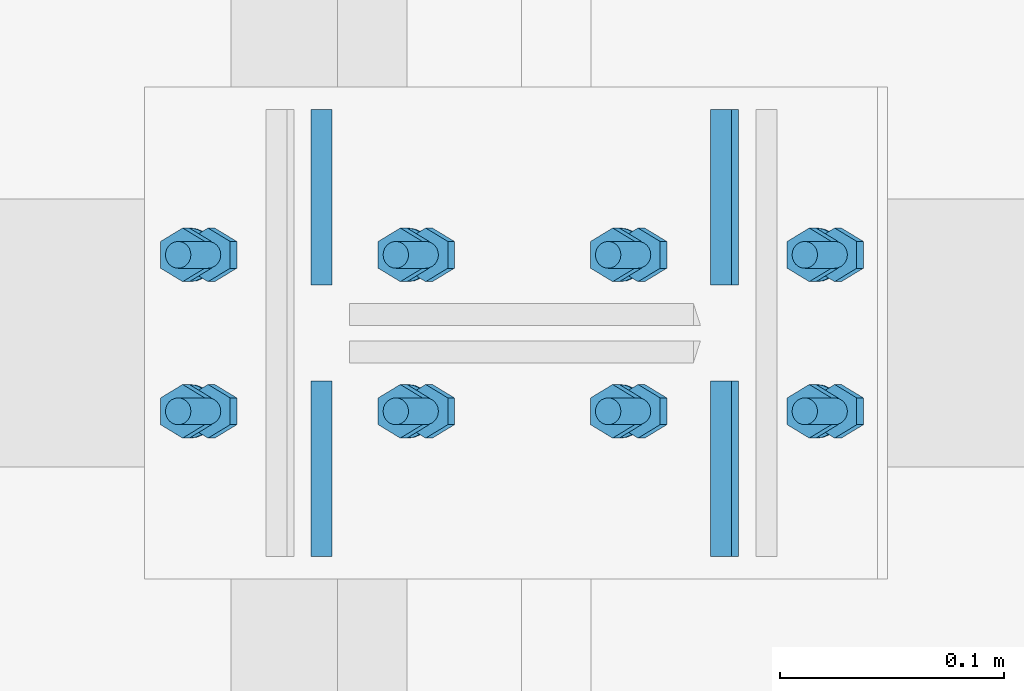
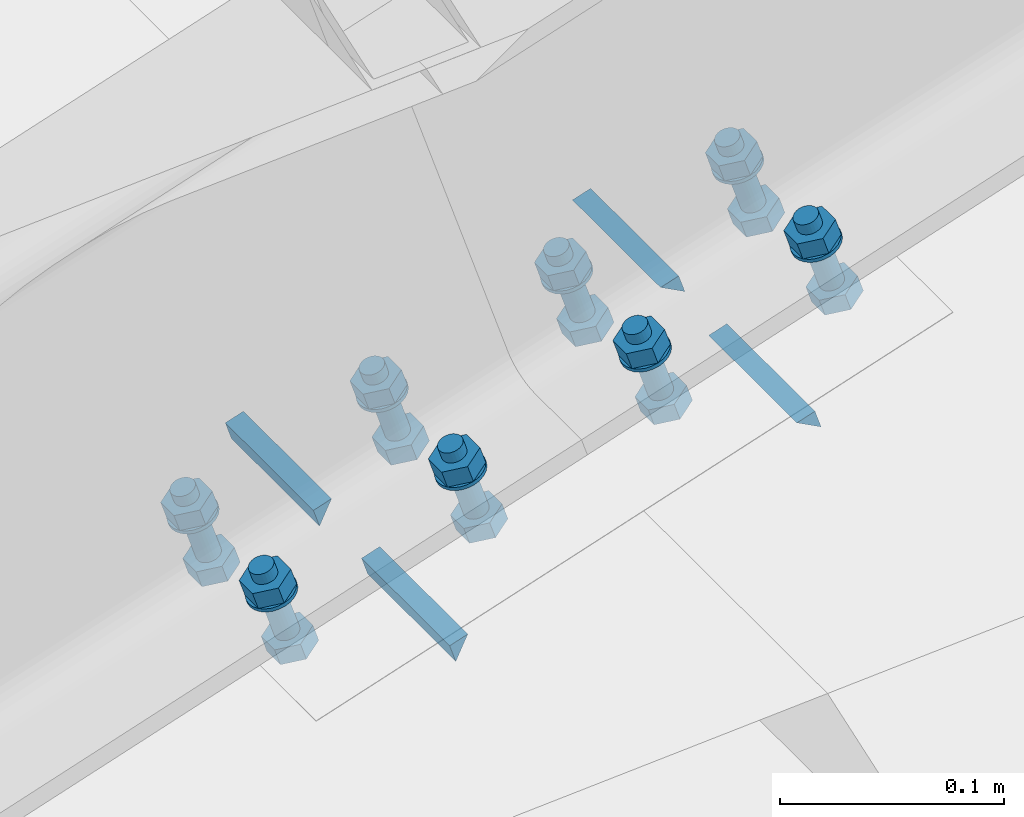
# One storey, part 33 of 53: 32 mechanical fasteners, 8 fasteners.
"""IFC4 building model written with IfcOpenShell, lengths in metres."""

from ifc_helpers import new_model, si_unit, frame, origin_with_axes, place, context, project, spatial, polyline, outline, extrude, type_object, element, save


model = new_model("IFC4")

# Units and contexts
model_context = context("Model", 3, precision=1e-05, world=origin_with_axes())
ifc_project = project(units=[si_unit("LENGTHUNIT", "METRE"), si_unit("AREAUNIT", "SQUARE_METRE"), si_unit("VOLUMEUNIT", "CUBIC_METRE"), si_unit("MASSUNIT", "GRAM", prefix="KILO"), si_unit("TIMEUNIT", "SECOND"), si_unit("PLANEANGLEUNIT", "RADIAN"), si_unit("SOLIDANGLEUNIT", "STERADIAN"), si_unit("THERMODYNAMICTEMPERATUREUNIT", "DEGREE_CELSIUS")], contexts=[model_context])

# Site, building, storey
placement_1 = place(None, origin_with_axes())
site = spatial("IfcSite", under=ifc_project, at=placement_1, Name="Italia", CompositionType="ELEMENT")
building = spatial("IfcBuilding", under=site, at=placement_1, Name="Capannone", CompositionType="ELEMENT")
storey_placement = place(None, frame((0.0, 0.0, 5.550000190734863), z_axis=(0.0, 0.0, 1.0), x_axis=(1.0, 0.0, 0.0)))
storey = spatial("IfcBuildingStorey", under=building, at=storey_placement, Name="Storey 1", CompositionType="ELEMENT", Elevation=5.550000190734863)

# Fasteners
fastener_type_1 = type_object("IfcFastenerType", Name="Collegamenti 0101_0001 0103_0003 0105_0005 0107_0007 0109_0009 0111_0011", PredefinedType="WELD")
placement_2 = place(placement_1, origin_with_axes())
fastener_1_placement = place(placement_2, origin_with_axes())
element("IfcFastener", 1, at=fastener_1_placement, inside=storey, type_object=fastener_type_1, Name="Collegamenti 0101_0001 0103_0003 0105_0005 0107_0007 0109_0009 0111_0011", context=model_context, shape_type="SweptSolid", body=[
    extrude(outline(polyline([(0.0, 0.0), (-0.00619942, -0.0127454), (-0.00937507, -0.00308037), (0.0, 0.0)])), frame((-0.0846885, 9.10005, 5.50644), z_axis=(0.0, -1.0, 0.0), x_axis=(1.0, 0.0, 0.0)), (0.0, 0.0, 1.0), 0.0785999),
])
fastener_type_2 = type_object("IfcFastenerType", Name="Collegamenti 0101_0001 0103_0003 0105_0005 0107_0007 0109_0009 0111_0011", PredefinedType="WELD")
fastener_2_placement = place(placement_2, origin_with_axes())
element("IfcFastener", 2, at=fastener_2_placement, inside=storey, type_object=fastener_type_2, Name="Collegamenti 0101_0001 0103_0003 0105_0005 0107_0007 0109_0009 0111_0011", context=model_context, shape_type="SweptSolid", body=[
    extrude(outline(polyline([(0.0, 0.0), (-0.0125507, -0.00658464), (-0.00937507, 0.00308037), (0.0, 0.0)])), frame((0.0846564, 9.02145, 5.56208), z_axis=(0.0, 1.0, 0.0), x_axis=(-1.0, 0.0, 0.0)), (0.0, 0.0, 1.0), 0.0785999),
])
fastener_type_3 = type_object("IfcFastenerType", Name="Collegamenti 0101_0001 0103_0003 0105_0005 0107_0007 0109_0009 0111_0011", PredefinedType="WELD")
fastener_3_placement = place(placement_2, origin_with_axes())
element("IfcFastener", 3, at=fastener_3_placement, inside=storey, type_object=fastener_type_3, Name="Collegamenti 0101_0001 0103_0003 0105_0005 0107_0007 0109_0009 0111_0011", context=model_context, shape_type="SweptSolid", body=[
    extrude(outline(polyline([(0.0, 0.0), (-0.0125507, -0.00658464), (-0.00937507, 0.00308037), (0.0, 0.0)])), frame((0.0846564, 8.89995, 5.56208), z_axis=(0.0, 1.0, 0.0), x_axis=(-1.0, 0.0, 0.0)), (0.0, 0.0, 1.0), 0.0785999),
])
fastener_type_4 = type_object("IfcFastenerType", Name="Collegamenti 0101_0001 0103_0003 0105_0005 0107_0007 0109_0009 0111_0011", PredefinedType="WELD")
fastener_4_placement = place(placement_2, origin_with_axes())
element("IfcFastener", 4, at=fastener_4_placement, inside=storey, type_object=fastener_type_4, Name="Collegamenti 0101_0001 0103_0003 0105_0005 0107_0007 0109_0009 0111_0011", context=model_context, shape_type="SweptSolid", body=[
    extrude(outline(polyline([(0.0, 0.0), (-0.00619942, -0.0127454), (-0.00937507, -0.00308037), (0.0, 0.0)])), frame((-0.0846885, 8.97855, 5.50644), z_axis=(0.0, -1.0, 0.0), x_axis=(1.0, 0.0, 0.0)), (0.0, 0.0, 1.0), 0.0785999),
])
fastener_type_5 = type_object("IfcFastenerType", Name="Collegamenti 0101_0001 0103_0003 0105_0005 0107_0007 0109_0009 0111_0011", PredefinedType="WELD")
fastener_5_placement = place(placement_2, origin_with_axes())
element("IfcFastener", 5, at=fastener_5_placement, inside=storey, type_object=fastener_type_5, Name="Collegamenti 0101_0001 0103_0003 0105_0005 0107_0007 0109_0009 0111_0011", context=model_context, shape_type="SweptSolid", body=[
    extrude(outline(polyline([(0.0, 0.0), (-0.00619942, -0.0127454), (-0.00937507, -0.00308037), (0.0, 0.0)])), frame((-0.0846885, 9.10005, 5.50644), z_axis=(0.0, -1.0, 0.0), x_axis=(1.0, 0.0, 0.0)), (0.0, 0.0, 1.0), 0.0785999),
])
fastener_type_6 = type_object("IfcFastenerType", Name="Collegamenti 0101_0001 0103_0003 0105_0005 0107_0007 0109_0009 0111_0011", PredefinedType="WELD")
fastener_6_placement = place(placement_2, origin_with_axes())
element("IfcFastener", 6, at=fastener_6_placement, inside=storey, type_object=fastener_type_6, Name="Collegamenti 0101_0001 0103_0003 0105_0005 0107_0007 0109_0009 0111_0011", context=model_context, shape_type="SweptSolid", body=[
    extrude(outline(polyline([(0.0, 0.0), (-0.0125507, -0.00658464), (-0.00937507, 0.00308037), (0.0, 0.0)])), frame((0.0846564, 9.02145, 5.56208), z_axis=(0.0, 1.0, 0.0), x_axis=(-1.0, 0.0, 0.0)), (0.0, 0.0, 1.0), 0.0785999),
])
fastener_type_7 = type_object("IfcFastenerType", Name="Collegamenti 0101_0001 0103_0003 0105_0005 0107_0007 0109_0009 0111_0011", PredefinedType="WELD")
fastener_7_placement = place(placement_2, origin_with_axes())
element("IfcFastener", 7, at=fastener_7_placement, inside=storey, type_object=fastener_type_7, Name="Collegamenti 0101_0001 0103_0003 0105_0005 0107_0007 0109_0009 0111_0011", context=model_context, shape_type="SweptSolid", body=[
    extrude(outline(polyline([(0.0, 0.0), (-0.0125507, -0.00658464), (-0.00937507, 0.00308037), (0.0, 0.0)])), frame((0.0846564, 8.89995, 5.56208), z_axis=(0.0, 1.0, 0.0), x_axis=(-1.0, 0.0, 0.0)), (0.0, 0.0, 1.0), 0.0785999),
])
fastener_type_8 = type_object("IfcFastenerType", Name="Collegamenti 0101_0001 0103_0003 0105_0005 0107_0007 0109_0009 0111_0011", PredefinedType="WELD")
fastener_8_placement = place(placement_2, origin_with_axes())
element("IfcFastener", 8, at=fastener_8_placement, inside=storey, type_object=fastener_type_8, Name="Collegamenti 0101_0001 0103_0003 0105_0005 0107_0007 0109_0009 0111_0011", context=model_context, shape_type="SweptSolid", body=[
    extrude(outline(polyline([(0.0, 0.0), (-0.00619942, -0.0127454), (-0.00937507, -0.00308037), (0.0, 0.0)])), frame((-0.0846885, 8.97855, 5.50644), z_axis=(0.0, -1.0, 0.0), x_axis=(1.0, 0.0, 0.0)), (0.0, 0.0, 1.0), 0.0785999),
])

# Mechanical fasteners
mechanical_fastener_type_1 = type_object("IfcMechanicalFastenerType", Name="Collegamenti 0101_0001 0103_0003 0105_0005 0107_0007 0109_0009 0111_0011", PredefinedType="BOLT")
mechanical_fastener_1_placement = place(placement_2, origin_with_axes())
element("IfcMechanicalFastener", 9, at=mechanical_fastener_1_placement, inside=storey, type_object=mechanical_fastener_type_1, Name="Collegamenti 0101_0001 0103_0003 0105_0005 0107_0007 0109_0009 0111_0011", NominalDiameter=0.0119998, context=model_context, shape_type="SweptSolid", body=[
    extrude(outline(polyline([(0.0, 0.0), (0.0120001, 0.0), (0.0179996, -0.0103923), (0.0120001, -0.0207845), (0.0, -0.0207845), (-0.00600052, -0.0103923), (0.0, 0.0)])), frame((-0.130325, 9.029, 5.49139), z_axis=(0.312164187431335, 0.0, -0.95002818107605), x_axis=(0.0, 1.0, 0.0)), (0.0, 0.0, 1.0), 0.0095997),
])
mechanical_fastener_type_2 = type_object("IfcMechanicalFastenerType", Name="Collegamenti 0101_0001 0103_0003 0105_0005 0107_0007 0109_0009 0111_0011", PredefinedType="BOLT")
mechanical_fastener_2_placement = place(placement_2, origin_with_axes())
element("IfcMechanicalFastener", 10, at=mechanical_fastener_2_placement, inside=storey, type_object=mechanical_fastener_type_2, Name="Collegamenti 0101_0001 0103_0003 0105_0005 0107_0007 0109_0009 0111_0011", NominalDiameter=0.012, context=model_context, shape_type="SweptSolid", body=[
    extrude(outline(polyline([(0.0, 0.0), (-0.000204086, -0.00155306), (-0.000802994, -0.00300002), (-0.00175667, -0.00424254), (-0.00299931, -0.00519633), (-0.00444698, -0.0057956), (-0.00599957, -0.00600004), (-0.00755215, -0.0057956), (-0.00899982, -0.00519633), (-0.0102425, -0.00424254), (-0.0111961, -0.00300002), (-0.011795, -0.00155306), (-0.0119991, 0.0), (-0.011795, 0.00155294), (-0.0111961, 0.00300002), (-0.0102425, 0.00424254), (-0.00899982, 0.00519621), (-0.00755215, 0.00579548), (-0.00599957, 0.00600004), (-0.00444698, 0.00579548), (-0.00299931, 0.00519621), (-0.00175667, 0.00424254), (-0.000802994, 0.00300002), (-0.000204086, 0.00155294), (0.0, 0.0)])), frame((-0.153558, 9.041, 5.52881), z_axis=(0.312153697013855, 0.0, -0.950031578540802), x_axis=(0.0, 1.0, 0.0)), (0.0, 0.0, 1.0), 0.0428),
])
mechanical_fastener_type_3 = type_object("IfcMechanicalFastenerType", Name="Collegamenti 0101_0001 0103_0003 0105_0005 0107_0007 0109_0009 0111_0011", PredefinedType="BOLT")
mechanical_fastener_3_placement = place(placement_2, origin_with_axes())
element("IfcMechanicalFastener", 11, at=mechanical_fastener_3_placement, inside=storey, type_object=mechanical_fastener_type_3, Name="Collegamenti 0101_0001 0103_0003 0105_0005 0107_0007 0109_0009 0111_0011", NominalDiameter=0.0119998, context=model_context, shape_type="SweptSolid", body=[
    extrude(outline(polyline([(0.0, 0.0), (0.0120001, 0.0), (0.0179996, -0.0103924), (0.0120001, -0.0207846), (0.0, -0.0207846), (-0.00600052, -0.0103924), (0.0, 0.0)])), frame((-0.141687, 9.029, 5.52597), z_axis=(0.312164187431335, 0.0, -0.95002818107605), x_axis=(0.0, 1.0, 0.0)), (0.0, 0.0, 1.0), 0.0095997),
])
mechanical_fastener_type_4 = type_object("IfcMechanicalFastenerType", Name="Collegamenti 0101_0001 0103_0003 0105_0005 0107_0007 0109_0009 0111_0011", PredefinedType="BOLT")
mechanical_fastener_4_placement = place(placement_2, origin_with_axes())
element("IfcMechanicalFastener", 12, at=mechanical_fastener_4_placement, inside=storey, type_object=mechanical_fastener_type_4, Name="Collegamenti 0101_0001 0103_0003 0105_0005 0107_0007 0109_0009 0111_0011", NominalDiameter=0.024, context=model_context, shape_type="SweptSolid", body=[
    extrude(outline(polyline([(0.0, 0.0), (-0.000409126, -0.00310576), (-0.00160789, -0.00599992), (-0.00351524, -0.0084852), (-0.00600052, -0.0103922), (-0.00889397, -0.0115911), (-0.0120001, -0.0119998), (-0.0151062, -0.0115911), (-0.0179996, -0.0103922), (-0.0204849, -0.0084852), (-0.0223923, -0.00599992), (-0.023591, -0.00310576), (-0.0240002, 0.0), (-0.023591, 0.003106), (-0.0223923, 0.00600016), (-0.0204849, 0.00848532), (-0.0179996, 0.0103924), (-0.0151062, 0.0115913), (-0.0120001, 0.0120001), (-0.00889397, 0.0115913), (-0.00600052, 0.0103924), (-0.00351524, 0.00848532), (-0.00160789, 0.00600016), (-0.000409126, 0.003106), (0.0, 0.0)])), frame((-0.148563, 9.047, 5.51361), z_axis=(0.312059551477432, 0.0, -0.95006251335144), x_axis=(0.0, 1.0, 0.0)), (0.0, 0.0, 1.0), 0.00200058),
])
mechanical_fastener_type_5 = type_object("IfcMechanicalFastenerType", Name="Collegamenti 0101_0001 0103_0003 0105_0005 0107_0007 0109_0009 0111_0011", PredefinedType="BOLT")
mechanical_fastener_5_placement = place(placement_2, origin_with_axes())
element("IfcMechanicalFastener", 13, at=mechanical_fastener_5_placement, inside=storey, type_object=mechanical_fastener_type_5, Name="Collegamenti 0101_0001 0103_0003 0105_0005 0107_0007 0109_0009 0111_0011", NominalDiameter=0.0119998, context=model_context, shape_type="SweptSolid", body=[
    extrude(outline(polyline([(0.0, 0.0), (0.0120001, 0.0), (0.0180006, -0.0103923), (0.0120001, -0.0207845), (0.0, -0.0207845), (-0.00599957, -0.0103923), (0.0, 0.0)])), frame((-0.130325, 8.959, 5.49139), z_axis=(0.312164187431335, 0.0, -0.95002818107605), x_axis=(0.0, 1.0, 0.0)), (0.0, 0.0, 1.0), 0.0095997),
])
mechanical_fastener_type_6 = type_object("IfcMechanicalFastenerType", Name="Collegamenti 0101_0001 0103_0003 0105_0005 0107_0007 0109_0009 0111_0011", PredefinedType="BOLT")
mechanical_fastener_6_placement = place(placement_2, origin_with_axes())
element("IfcMechanicalFastener", 14, at=mechanical_fastener_6_placement, inside=storey, type_object=mechanical_fastener_type_6, Name="Collegamenti 0101_0001 0103_0003 0105_0005 0107_0007 0109_0009 0111_0011", NominalDiameter=0.012, context=model_context, shape_type="SweptSolid", body=[
    extrude(outline(polyline([(0.0, 0.0), (-0.000204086, -0.00155306), (-0.000802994, -0.00300002), (-0.00175667, -0.00424254), (-0.00299931, -0.00519633), (-0.00444698, -0.0057956), (-0.00599957, -0.00600004), (-0.00755215, -0.0057956), (-0.00899982, -0.00519633), (-0.0102425, -0.00424254), (-0.0111961, -0.00300002), (-0.011795, -0.00155306), (-0.0119991, 0.0), (-0.011795, 0.00155294), (-0.0111961, 0.00300002), (-0.0102425, 0.00424254), (-0.00899982, 0.00519621), (-0.00755215, 0.00579548), (-0.00599957, 0.00600004), (-0.00444698, 0.00579548), (-0.00299931, 0.00519621), (-0.00175667, 0.00424254), (-0.000802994, 0.00300002), (-0.000204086, 0.00155294), (0.0, 0.0)])), frame((-0.153558, 8.971, 5.52881), z_axis=(0.312153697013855, 0.0, -0.950031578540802), x_axis=(0.0, 1.0, 0.0)), (0.0, 0.0, 1.0), 0.0428),
])
mechanical_fastener_type_7 = type_object("IfcMechanicalFastenerType", Name="Collegamenti 0101_0001 0103_0003 0105_0005 0107_0007 0109_0009 0111_0011", PredefinedType="BOLT")
mechanical_fastener_7_placement = place(placement_2, origin_with_axes())
element("IfcMechanicalFastener", 15, at=mechanical_fastener_7_placement, inside=storey, type_object=mechanical_fastener_type_7, Name="Collegamenti 0101_0001 0103_0003 0105_0005 0107_0007 0109_0009 0111_0011", NominalDiameter=0.0119998, context=model_context, shape_type="SweptSolid", body=[
    extrude(outline(polyline([(0.0, 0.0), (0.0120001, 0.0), (0.0180006, -0.0103924), (0.0120001, -0.0207846), (0.0, -0.0207846), (-0.00599957, -0.0103924), (0.0, 0.0)])), frame((-0.141687, 8.959, 5.52597), z_axis=(0.312164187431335, 0.0, -0.95002818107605), x_axis=(0.0, 1.0, 0.0)), (0.0, 0.0, 1.0), 0.0095997),
])
mechanical_fastener_type_8 = type_object("IfcMechanicalFastenerType", Name="Collegamenti 0101_0001 0103_0003 0105_0005 0107_0007 0109_0009 0111_0011", PredefinedType="BOLT")
mechanical_fastener_8_placement = place(placement_2, origin_with_axes())
element("IfcMechanicalFastener", 16, at=mechanical_fastener_8_placement, inside=storey, type_object=mechanical_fastener_type_8, Name="Collegamenti 0101_0001 0103_0003 0105_0005 0107_0007 0109_0009 0111_0011", NominalDiameter=0.024, context=model_context, shape_type="SweptSolid", body=[
    extrude(outline(polyline([(0.0, 0.0), (-0.000409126, -0.00310576), (-0.00160789, -0.00599992), (-0.00351524, -0.0084852), (-0.00600052, -0.0103922), (-0.00889397, -0.0115911), (-0.0120001, -0.0119998), (-0.0151062, -0.0115911), (-0.0179996, -0.0103922), (-0.0204849, -0.0084852), (-0.0223923, -0.00599992), (-0.023591, -0.00310576), (-0.0240002, 0.0), (-0.023591, 0.003106), (-0.0223923, 0.00600016), (-0.0204849, 0.00848532), (-0.0179996, 0.0103924), (-0.0151062, 0.0115913), (-0.0120001, 0.0120001), (-0.00889397, 0.0115913), (-0.00600052, 0.0103924), (-0.00351524, 0.00848532), (-0.00160789, 0.00600016), (-0.000409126, 0.003106), (0.0, 0.0)])), frame((-0.148563, 8.977, 5.51361), z_axis=(0.312059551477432, 0.0, -0.95006251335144), x_axis=(0.0, 1.0, 0.0)), (0.0, 0.0, 1.0), 0.00200058),
])
mechanical_fastener_type_9 = type_object("IfcMechanicalFastenerType", Name="Collegamenti 0101_0001 0103_0003 0105_0005 0107_0007 0109_0009 0111_0011", PredefinedType="BOLT")
mechanical_fastener_9_placement = place(placement_2, origin_with_axes())
element("IfcMechanicalFastener", 17, at=mechanical_fastener_9_placement, inside=storey, type_object=mechanical_fastener_type_9, Name="Collegamenti 0101_0001 0103_0003 0105_0005 0107_0007 0109_0009 0111_0011", NominalDiameter=0.0119998, context=model_context, shape_type="SweptSolid", body=[
    extrude(outline(polyline([(0.0, 0.0), (0.0120001, 0.0), (0.0179996, -0.0103924), (0.0120001, -0.0207846), (0.0, -0.0207846), (-0.00600052, -0.0103924), (0.0, 0.0)])), frame((0.0620569, 9.029, 5.5546), z_axis=(0.312162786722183, 0.0, -0.950028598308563), x_axis=(0.0, 1.0, 0.0)), (0.0, 0.0, 1.0), 0.0095997),
])
mechanical_fastener_type_10 = type_object("IfcMechanicalFastenerType", Name="Collegamenti 0101_0001 0103_0003 0105_0005 0107_0007 0109_0009 0111_0011", PredefinedType="BOLT")
mechanical_fastener_10_placement = place(placement_2, origin_with_axes())
element("IfcMechanicalFastener", 18, at=mechanical_fastener_10_placement, inside=storey, type_object=mechanical_fastener_type_10, Name="Collegamenti 0101_0001 0103_0003 0105_0005 0107_0007 0109_0009 0111_0011", NominalDiameter=0.012, context=model_context, shape_type="SweptSolid", body=[
    extrude(outline(polyline([(0.0, 0.0), (-0.000204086, -0.00155294), (-0.000802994, -0.0029999), (-0.00175667, -0.00424266), (-0.00299931, -0.00519621), (-0.00444698, -0.00579548), (-0.00599957, -0.00600004), (-0.00755215, -0.00579548), (-0.00899982, -0.00519621), (-0.0102425, -0.00424266), (-0.0111961, -0.0029999), (-0.011795, -0.00155294), (-0.0119991, 0.0), (-0.011795, 0.00155306), (-0.0111961, 0.00300002), (-0.0102425, 0.00424254), (-0.00899982, 0.00519621), (-0.00755215, 0.0057956), (-0.00599957, 0.00600004), (-0.00444698, 0.0057956), (-0.00299931, 0.00519621), (-0.00175667, 0.00424254), (-0.000802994, 0.00300002), (-0.000204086, 0.00155306), (0.0, 0.0)])), frame((0.0388237, 9.041, 5.59202), z_axis=(0.312154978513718, 0.0, -0.950031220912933), x_axis=(0.0, 1.0, 0.0)), (0.0, 0.0, 1.0), 0.0428),
])
mechanical_fastener_type_11 = type_object("IfcMechanicalFastenerType", Name="Collegamenti 0101_0001 0103_0003 0105_0005 0107_0007 0109_0009 0111_0011", PredefinedType="BOLT")
mechanical_fastener_11_placement = place(placement_2, origin_with_axes())
element("IfcMechanicalFastener", 19, at=mechanical_fastener_11_placement, inside=storey, type_object=mechanical_fastener_type_11, Name="Collegamenti 0101_0001 0103_0003 0105_0005 0107_0007 0109_0009 0111_0011", NominalDiameter=0.0119998, context=model_context, shape_type="SweptSolid", body=[
    extrude(outline(polyline([(0.0, 0.0), (0.0120001, 0.0), (0.0179996, -0.0103922), (0.0120001, -0.0207845), (0.0, -0.0207845), (-0.00600052, -0.0103922), (0.0, 0.0)])), frame((0.0506946, 9.029, 5.58918), z_axis=(0.312163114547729, 0.0, -0.950028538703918), x_axis=(0.0, 1.0, 0.0)), (0.0, 0.0, 1.0), 0.0095997),
])
mechanical_fastener_type_12 = type_object("IfcMechanicalFastenerType", Name="Collegamenti 0101_0001 0103_0003 0105_0005 0107_0007 0109_0009 0111_0011", PredefinedType="BOLT")
mechanical_fastener_12_placement = place(placement_2, origin_with_axes())
element("IfcMechanicalFastener", 20, at=mechanical_fastener_12_placement, inside=storey, type_object=mechanical_fastener_type_12, Name="Collegamenti 0101_0001 0103_0003 0105_0005 0107_0007 0109_0009 0111_0011", NominalDiameter=0.024, context=model_context, shape_type="SweptSolid", body=[
    extrude(outline(polyline([(0.0, 0.0), (-0.000409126, -0.003106), (-0.00160789, -0.00600004), (-0.00351524, -0.00848544), (-0.00600052, -0.0103923), (-0.00889397, -0.0115912), (-0.0120001, -0.0120001), (-0.0151062, -0.0115912), (-0.0179996, -0.0103923), (-0.0204849, -0.00848544), (-0.0223923, -0.00600004), (-0.023591, -0.003106), (-0.0240002, 0.0), (-0.023591, 0.00310588), (-0.0223923, 0.0059998), (-0.0204849, 0.0084852), (-0.0179996, 0.0103922), (-0.0151062, 0.011591), (-0.0120001, 0.012), (-0.00889397, 0.011591), (-0.00600052, 0.0103922), (-0.00351524, 0.0084852), (-0.00160789, 0.0059998), (-0.000409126, 0.00310588), (0.0, 0.0)])), frame((0.0438182, 9.047, 5.57682), z_axis=(0.312204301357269, 0.0, -0.950015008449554), x_axis=(0.0, 1.0, 0.0)), (0.0, 0.0, 1.0), 0.00199967),
])
mechanical_fastener_type_13 = type_object("IfcMechanicalFastenerType", Name="Collegamenti 0101_0001 0103_0003 0105_0005 0107_0007 0109_0009 0111_0011", PredefinedType="BOLT")
mechanical_fastener_13_placement = place(placement_2, origin_with_axes())
element("IfcMechanicalFastener", 21, at=mechanical_fastener_13_placement, inside=storey, type_object=mechanical_fastener_type_13, Name="Collegamenti 0101_0001 0103_0003 0105_0005 0107_0007 0109_0009 0111_0011", NominalDiameter=0.0119998, context=model_context, shape_type="SweptSolid", body=[
    extrude(outline(polyline([(0.0, 0.0), (0.0120001, 0.0), (0.0180006, -0.0103924), (0.0120001, -0.0207846), (0.0, -0.0207846), (-0.00599957, -0.0103924), (0.0, 0.0)])), frame((0.0620569, 8.959, 5.5546), z_axis=(0.312162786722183, 0.0, -0.950028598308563), x_axis=(0.0, 1.0, 0.0)), (0.0, 0.0, 1.0), 0.0095997),
])
mechanical_fastener_type_14 = type_object("IfcMechanicalFastenerType", Name="Collegamenti 0101_0001 0103_0003 0105_0005 0107_0007 0109_0009 0111_0011", PredefinedType="BOLT")
mechanical_fastener_14_placement = place(placement_2, origin_with_axes())
element("IfcMechanicalFastener", 22, at=mechanical_fastener_14_placement, inside=storey, type_object=mechanical_fastener_type_14, Name="Collegamenti 0101_0001 0103_0003 0105_0005 0107_0007 0109_0009 0111_0011", NominalDiameter=0.012, context=model_context, shape_type="SweptSolid", body=[
    extrude(outline(polyline([(0.0, 0.0), (-0.000204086, -0.00155294), (-0.000802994, -0.0029999), (-0.00175667, -0.00424266), (-0.00299931, -0.00519621), (-0.00444698, -0.00579548), (-0.00599957, -0.00600004), (-0.00755215, -0.00579548), (-0.00899982, -0.00519621), (-0.0102425, -0.00424266), (-0.0111961, -0.0029999), (-0.011795, -0.00155294), (-0.0119991, 0.0), (-0.011795, 0.00155306), (-0.0111961, 0.00300002), (-0.0102425, 0.00424254), (-0.00899982, 0.00519621), (-0.00755215, 0.0057956), (-0.00599957, 0.00600004), (-0.00444698, 0.0057956), (-0.00299931, 0.00519621), (-0.00175667, 0.00424254), (-0.000802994, 0.00300002), (-0.000204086, 0.00155306), (0.0, 0.0)])), frame((0.0388237, 8.971, 5.59202), z_axis=(0.312154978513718, 0.0, -0.950031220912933), x_axis=(0.0, 1.0, 0.0)), (0.0, 0.0, 1.0), 0.0428),
])
mechanical_fastener_type_15 = type_object("IfcMechanicalFastenerType", Name="Collegamenti 0101_0001 0103_0003 0105_0005 0107_0007 0109_0009 0111_0011", PredefinedType="BOLT")
mechanical_fastener_15_placement = place(placement_2, origin_with_axes())
element("IfcMechanicalFastener", 23, at=mechanical_fastener_15_placement, inside=storey, type_object=mechanical_fastener_type_15, Name="Collegamenti 0101_0001 0103_0003 0105_0005 0107_0007 0109_0009 0111_0011", NominalDiameter=0.0119998, context=model_context, shape_type="SweptSolid", body=[
    extrude(outline(polyline([(0.0, 0.0), (0.0120001, 0.0), (0.0180006, -0.0103922), (0.0120001, -0.0207845), (0.0, -0.0207845), (-0.00599957, -0.0103922), (0.0, 0.0)])), frame((0.0506946, 8.959, 5.58918), z_axis=(0.312163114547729, 0.0, -0.950028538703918), x_axis=(0.0, 1.0, 0.0)), (0.0, 0.0, 1.0), 0.0095997),
])
mechanical_fastener_type_16 = type_object("IfcMechanicalFastenerType", Name="Collegamenti 0101_0001 0103_0003 0105_0005 0107_0007 0109_0009 0111_0011", PredefinedType="BOLT")
mechanical_fastener_16_placement = place(placement_2, origin_with_axes())
element("IfcMechanicalFastener", 24, at=mechanical_fastener_16_placement, inside=storey, type_object=mechanical_fastener_type_16, Name="Collegamenti 0101_0001 0103_0003 0105_0005 0107_0007 0109_0009 0111_0011", NominalDiameter=0.024, context=model_context, shape_type="SweptSolid", body=[
    extrude(outline(polyline([(0.0, 0.0), (-0.000409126, -0.003106), (-0.00160789, -0.00600004), (-0.00351524, -0.00848544), (-0.00600052, -0.0103923), (-0.00889397, -0.0115912), (-0.0120001, -0.0120001), (-0.0151062, -0.0115912), (-0.0179996, -0.0103923), (-0.0204849, -0.00848544), (-0.0223923, -0.00600004), (-0.023591, -0.003106), (-0.0240002, 0.0), (-0.023591, 0.00310588), (-0.0223923, 0.0059998), (-0.0204849, 0.0084852), (-0.0179996, 0.0103922), (-0.0151062, 0.011591), (-0.0120001, 0.012), (-0.00889397, 0.011591), (-0.00600052, 0.0103922), (-0.00351524, 0.0084852), (-0.00160789, 0.0059998), (-0.000409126, 0.00310588), (0.0, 0.0)])), frame((0.0438182, 8.977, 5.57682), z_axis=(0.312204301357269, 0.0, -0.950015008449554), x_axis=(0.0, 1.0, 0.0)), (0.0, 0.0, 1.0), 0.00199967),
])
mechanical_fastener_type_17 = type_object("IfcMechanicalFastenerType", Name="Collegamenti 0101_0001 0103_0003 0105_0005 0107_0007 0109_0009 0111_0011", PredefinedType="BOLT")
mechanical_fastener_17_placement = place(placement_2, origin_with_axes())
element("IfcMechanicalFastener", 25, at=mechanical_fastener_17_placement, inside=storey, type_object=mechanical_fastener_type_17, Name="Collegamenti 0101_0001 0103_0003 0105_0005 0107_0007 0109_0009 0111_0011", NominalDiameter=0.0119998, context=model_context, shape_type="SweptSolid", body=[
    extrude(outline(polyline([(0.0, 0.0), (0.0120001, 0.0), (0.0179996, -0.0103922), (0.0120001, -0.0207846), (0.0, -0.0207846), (-0.00600052, -0.0103922), (0.0, 0.0)])), frame((-0.0329462, 9.029, 5.52339), z_axis=(0.312148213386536, 0.0, -0.95003342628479), x_axis=(0.0, 1.0, 0.0)), (0.0, 0.0, 1.0), 0.00960015),
])
mechanical_fastener_type_18 = type_object("IfcMechanicalFastenerType", Name="Collegamenti 0101_0001 0103_0003 0105_0005 0107_0007 0109_0009 0111_0011", PredefinedType="BOLT")
mechanical_fastener_18_placement = place(placement_2, origin_with_axes())
element("IfcMechanicalFastener", 26, at=mechanical_fastener_18_placement, inside=storey, type_object=mechanical_fastener_type_18, Name="Collegamenti 0101_0001 0103_0003 0105_0005 0107_0007 0109_0009 0111_0011", NominalDiameter=0.012, context=model_context, shape_type="SweptSolid", body=[
    extrude(outline(polyline([(0.0, 0.0), (-0.000204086, -0.00155294), (-0.000802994, -0.00300002), (-0.00175667, -0.00424266), (-0.00299931, -0.00519621), (-0.00444698, -0.0057956), (-0.00599957, -0.00600004), (-0.00755215, -0.0057956), (-0.00899982, -0.00519621), (-0.0102425, -0.00424266), (-0.0111961, -0.00300002), (-0.011795, -0.00155294), (-0.0119991, 0.0), (-0.011795, 0.00155306), (-0.0111961, 0.00300002), (-0.0102425, 0.00424254), (-0.00899982, 0.00519609), (-0.00755215, 0.0057956), (-0.00599957, 0.00600004), (-0.00444698, 0.0057956), (-0.00299931, 0.00519609), (-0.00175667, 0.00424254), (-0.000802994, 0.00300002), (-0.000204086, 0.00155306), (0.0, 0.0)])), frame((-0.0561794, 9.041, 5.5608), z_axis=(0.312153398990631, 0.0, -0.950031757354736), x_axis=(0.0, 1.0, 0.0)), (0.0, 0.0, 1.0), 0.0428),
])
mechanical_fastener_type_19 = type_object("IfcMechanicalFastenerType", Name="Collegamenti 0101_0001 0103_0003 0105_0005 0107_0007 0109_0009 0111_0011", PredefinedType="BOLT")
mechanical_fastener_19_placement = place(placement_2, origin_with_axes())
element("IfcMechanicalFastener", 27, at=mechanical_fastener_19_placement, inside=storey, type_object=mechanical_fastener_type_19, Name="Collegamenti 0101_0001 0103_0003 0105_0005 0107_0007 0109_0009 0111_0011", NominalDiameter=0.0119998, context=model_context, shape_type="SweptSolid", body=[
    extrude(outline(polyline([(0.0, 0.0), (0.0120001, 0.0), (0.0179996, -0.0103922), (0.0120001, -0.0207845), (0.0, -0.0207845), (-0.00600052, -0.0103922), (0.0, 0.0)])), frame((-0.0443086, 9.029, 5.55797), z_axis=(0.31214839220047, 0.0, -0.9500333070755), x_axis=(0.0, 1.0, 0.0)), (0.0, 0.0, 1.0), 0.00960015),
])
mechanical_fastener_type_20 = type_object("IfcMechanicalFastenerType", Name="Collegamenti 0101_0001 0103_0003 0105_0005 0107_0007 0109_0009 0111_0011", PredefinedType="BOLT")
mechanical_fastener_20_placement = place(placement_2, origin_with_axes())
element("IfcMechanicalFastener", 28, at=mechanical_fastener_20_placement, inside=storey, type_object=mechanical_fastener_type_20, Name="Collegamenti 0101_0001 0103_0003 0105_0005 0107_0007 0109_0009 0111_0011", NominalDiameter=0.024, context=model_context, shape_type="SweptSolid", body=[
    extrude(outline(polyline([(0.0, 0.0), (-0.000409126, -0.00310588), (-0.00160789, -0.00600004), (-0.00351524, -0.00848532), (-0.00600052, -0.0103923), (-0.00889397, -0.0115912), (-0.0120001, -0.012), (-0.0151062, -0.0115912), (-0.0179996, -0.0103923), (-0.0204849, -0.00848532), (-0.0223923, -0.00600004), (-0.023591, -0.00310588), (-0.0240002, 0.0), (-0.023591, 0.00310588), (-0.0223923, 0.00600004), (-0.0204849, 0.0084852), (-0.0179996, 0.0103923), (-0.0151062, 0.0115912), (-0.0120001, 0.012), (-0.00889397, 0.0115912), (-0.00600052, 0.0103923), (-0.00351524, 0.0084852), (-0.00160789, 0.00600004), (-0.000409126, 0.00310588), (0.0, 0.0)])), frame((-0.051185, 9.047, 5.5456), z_axis=(0.312062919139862, 0.0, -0.950061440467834), x_axis=(0.0, 1.0, 0.0)), (0.0, 0.0, 1.0), 0.00200058),
])
mechanical_fastener_type_21 = type_object("IfcMechanicalFastenerType", Name="Collegamenti 0101_0001 0103_0003 0105_0005 0107_0007 0109_0009 0111_0011", PredefinedType="BOLT")
mechanical_fastener_21_placement = place(placement_2, origin_with_axes())
element("IfcMechanicalFastener", 29, at=mechanical_fastener_21_placement, inside=storey, type_object=mechanical_fastener_type_21, Name="Collegamenti 0101_0001 0103_0003 0105_0005 0107_0007 0109_0009 0111_0011", NominalDiameter=0.0119998, context=model_context, shape_type="SweptSolid", body=[
    extrude(outline(polyline([(0.0, 0.0), (0.0120001, 0.0), (0.0180006, -0.0103922), (0.0120001, -0.0207846), (0.0, -0.0207846), (-0.00599957, -0.0103922), (0.0, 0.0)])), frame((-0.0329462, 8.959, 5.52339), z_axis=(0.312148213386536, 0.0, -0.95003342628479), x_axis=(0.0, 1.0, 0.0)), (0.0, 0.0, 1.0), 0.00960015),
])
mechanical_fastener_type_22 = type_object("IfcMechanicalFastenerType", Name="Collegamenti 0101_0001 0103_0003 0105_0005 0107_0007 0109_0009 0111_0011", PredefinedType="BOLT")
mechanical_fastener_22_placement = place(placement_2, origin_with_axes())
element("IfcMechanicalFastener", 30, at=mechanical_fastener_22_placement, inside=storey, type_object=mechanical_fastener_type_22, Name="Collegamenti 0101_0001 0103_0003 0105_0005 0107_0007 0109_0009 0111_0011", NominalDiameter=0.012, context=model_context, shape_type="SweptSolid", body=[
    extrude(outline(polyline([(0.0, 0.0), (-0.000204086, -0.00155294), (-0.000802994, -0.00300002), (-0.00175667, -0.00424266), (-0.00299931, -0.00519621), (-0.00444698, -0.0057956), (-0.00599957, -0.00600004), (-0.00755215, -0.0057956), (-0.00899982, -0.00519621), (-0.0102425, -0.00424266), (-0.0111961, -0.00300002), (-0.011795, -0.00155294), (-0.0119991, 0.0), (-0.011795, 0.00155306), (-0.0111961, 0.00300002), (-0.0102425, 0.00424254), (-0.00899982, 0.00519609), (-0.00755215, 0.0057956), (-0.00599957, 0.00600004), (-0.00444698, 0.0057956), (-0.00299931, 0.00519609), (-0.00175667, 0.00424254), (-0.000802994, 0.00300002), (-0.000204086, 0.00155306), (0.0, 0.0)])), frame((-0.0561794, 8.971, 5.5608), z_axis=(0.312153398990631, 0.0, -0.950031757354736), x_axis=(0.0, 1.0, 0.0)), (0.0, 0.0, 1.0), 0.0428),
])
mechanical_fastener_type_23 = type_object("IfcMechanicalFastenerType", Name="Collegamenti 0101_0001 0103_0003 0105_0005 0107_0007 0109_0009 0111_0011", PredefinedType="BOLT")
mechanical_fastener_23_placement = place(placement_2, origin_with_axes())
element("IfcMechanicalFastener", 31, at=mechanical_fastener_23_placement, inside=storey, type_object=mechanical_fastener_type_23, Name="Collegamenti 0101_0001 0103_0003 0105_0005 0107_0007 0109_0009 0111_0011", NominalDiameter=0.0119998, context=model_context, shape_type="SweptSolid", body=[
    extrude(outline(polyline([(0.0, 0.0), (0.0120001, 0.0), (0.0180006, -0.0103922), (0.0120001, -0.0207845), (0.0, -0.0207845), (-0.00599957, -0.0103922), (0.0, 0.0)])), frame((-0.0443086, 8.959, 5.55797), z_axis=(0.31214839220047, 0.0, -0.9500333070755), x_axis=(0.0, 1.0, 0.0)), (0.0, 0.0, 1.0), 0.00960015),
])
mechanical_fastener_type_24 = type_object("IfcMechanicalFastenerType", Name="Collegamenti 0101_0001 0103_0003 0105_0005 0107_0007 0109_0009 0111_0011", PredefinedType="BOLT")
mechanical_fastener_24_placement = place(placement_2, origin_with_axes())
element("IfcMechanicalFastener", 32, at=mechanical_fastener_24_placement, inside=storey, type_object=mechanical_fastener_type_24, Name="Collegamenti 0101_0001 0103_0003 0105_0005 0107_0007 0109_0009 0111_0011", NominalDiameter=0.024, context=model_context, shape_type="SweptSolid", body=[
    extrude(outline(polyline([(0.0, 0.0), (-0.000409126, -0.00310588), (-0.00160789, -0.00600004), (-0.00351524, -0.00848532), (-0.00600052, -0.0103923), (-0.00889397, -0.0115912), (-0.0120001, -0.012), (-0.0151062, -0.0115912), (-0.0179996, -0.0103923), (-0.0204849, -0.00848532), (-0.0223923, -0.00600004), (-0.023591, -0.00310588), (-0.0240002, 0.0), (-0.023591, 0.00310588), (-0.0223923, 0.00600004), (-0.0204849, 0.0084852), (-0.0179996, 0.0103923), (-0.0151062, 0.0115912), (-0.0120001, 0.012), (-0.00889397, 0.0115912), (-0.00600052, 0.0103923), (-0.00351524, 0.0084852), (-0.00160789, 0.00600004), (-0.000409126, 0.00310588), (0.0, 0.0)])), frame((-0.051185, 8.977, 5.5456), z_axis=(0.312062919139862, 0.0, -0.950061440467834), x_axis=(0.0, 1.0, 0.0)), (0.0, 0.0, 1.0), 0.00200058),
])
mechanical_fastener_type_25 = type_object("IfcMechanicalFastenerType", Name="Collegamenti 0101_0001 0103_0003 0105_0005 0107_0007 0109_0009 0111_0011", PredefinedType="BOLT")
mechanical_fastener_25_placement = place(placement_2, origin_with_axes())
element("IfcMechanicalFastener", 33, at=mechanical_fastener_25_placement, inside=storey, type_object=mechanical_fastener_type_25, Name="Collegamenti 0101_0001 0103_0003 0105_0005 0107_0007 0109_0009 0111_0011", NominalDiameter=0.0119998, context=model_context, shape_type="SweptSolid", body=[
    extrude(outline(polyline([(0.0, 0.0), (0.0120001, 0.0), (0.0179996, -0.0103923), (0.0120001, -0.0207845), (0.0, -0.0207845), (-0.00600052, -0.0103923), (0.0, 0.0)])), frame((0.15003, 9.029, 5.58351), z_axis=(0.312164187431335, 0.0, -0.95002818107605), x_axis=(0.0, 1.0, 0.0)), (0.0, 0.0, 1.0), 0.0095997),
])
mechanical_fastener_type_26 = type_object("IfcMechanicalFastenerType", Name="Collegamenti 0101_0001 0103_0003 0105_0005 0107_0007 0109_0009 0111_0011", PredefinedType="BOLT")
mechanical_fastener_26_placement = place(placement_2, origin_with_axes())
element("IfcMechanicalFastener", 34, at=mechanical_fastener_26_placement, inside=storey, type_object=mechanical_fastener_type_26, Name="Collegamenti 0101_0001 0103_0003 0105_0005 0107_0007 0109_0009 0111_0011", NominalDiameter=0.012, context=model_context, shape_type="SweptSolid", body=[
    extrude(outline(polyline([(0.0, 0.0), (-0.000204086, -0.00155306), (-0.000802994, -0.00300014), (-0.00175667, -0.00424266), (-0.00299931, -0.00519633), (-0.00444698, -0.00579572), (-0.00599957, -0.00600016), (-0.00755215, -0.00579572), (-0.00899982, -0.00519633), (-0.0102425, -0.00424266), (-0.0111961, -0.00300014), (-0.011795, -0.00155306), (-0.0119991, 0.0), (-0.011795, 0.00155294), (-0.0111961, 0.0029999), (-0.0102425, 0.00424254), (-0.00899982, 0.00519609), (-0.00755215, 0.00579548), (-0.00599957, 0.00599992), (-0.00444698, 0.00579548), (-0.00299931, 0.00519609), (-0.00175667, 0.00424254), (-0.000802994, 0.0029999), (-0.000204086, 0.00155294), (0.0, 0.0)])), frame((0.126797, 9.041, 5.62092), z_axis=(0.312151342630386, 0.0, -0.950032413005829), x_axis=(0.0, 1.0, 0.0)), (0.0, 0.0, 1.0), 0.0428004),
])
mechanical_fastener_type_27 = type_object("IfcMechanicalFastenerType", Name="Collegamenti 0101_0001 0103_0003 0105_0005 0107_0007 0109_0009 0111_0011", PredefinedType="BOLT")
mechanical_fastener_27_placement = place(placement_2, origin_with_axes())
element("IfcMechanicalFastener", 35, at=mechanical_fastener_27_placement, inside=storey, type_object=mechanical_fastener_type_27, Name="Collegamenti 0101_0001 0103_0003 0105_0005 0107_0007 0109_0009 0111_0011", NominalDiameter=0.0119998, context=model_context, shape_type="SweptSolid", body=[
    extrude(outline(polyline([(0.0, 0.0), (0.0120001, 0.0), (0.0179996, -0.0103924), (0.0120001, -0.0207846), (0.0, -0.0207846), (-0.00600052, -0.0103924), (0.0, 0.0)])), frame((0.138667, 9.029, 5.61809), z_axis=(0.312164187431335, 0.0, -0.95002818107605), x_axis=(0.0, 1.0, 0.0)), (0.0, 0.0, 1.0), 0.0095997),
])
mechanical_fastener_type_28 = type_object("IfcMechanicalFastenerType", Name="Collegamenti 0101_0001 0103_0003 0105_0005 0107_0007 0109_0009 0111_0011", PredefinedType="BOLT")
mechanical_fastener_28_placement = place(placement_2, origin_with_axes())
element("IfcMechanicalFastener", 36, at=mechanical_fastener_28_placement, inside=storey, type_object=mechanical_fastener_type_28, Name="Collegamenti 0101_0001 0103_0003 0105_0005 0107_0007 0109_0009 0111_0011", NominalDiameter=0.024, context=model_context, shape_type="SweptSolid", body=[
    extrude(outline(polyline([(0.0, 0.0), (-0.000409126, -0.00310588), (-0.00160789, -0.00600004), (-0.00351524, -0.00848532), (-0.00600052, -0.0103923), (-0.00889397, -0.0115911), (-0.0120001, -0.012), (-0.0151062, -0.0115911), (-0.0179996, -0.0103923), (-0.0204849, -0.00848532), (-0.0223923, -0.00600004), (-0.023591, -0.00310588), (-0.0240002, 0.0), (-0.023591, 0.00310588), (-0.0223923, 0.00600004), (-0.0204849, 0.0084852), (-0.0179996, 0.0103923), (-0.0151062, 0.0115912), (-0.0120001, 0.012), (-0.00889397, 0.0115912), (-0.00600052, 0.0103923), (-0.00351524, 0.0084852), (-0.00160789, 0.00600004), (-0.000409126, 0.00310588), (0.0, 0.0)])), frame((0.131791, 9.047, 5.60572), z_axis=(0.312059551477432, 0.0, -0.95006251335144), x_axis=(0.0, 1.0, 0.0)), (0.0, 0.0, 1.0), 0.00200058),
])
mechanical_fastener_type_29 = type_object("IfcMechanicalFastenerType", Name="Collegamenti 0101_0001 0103_0003 0105_0005 0107_0007 0109_0009 0111_0011", PredefinedType="BOLT")
mechanical_fastener_29_placement = place(placement_2, origin_with_axes())
element("IfcMechanicalFastener", 37, at=mechanical_fastener_29_placement, inside=storey, type_object=mechanical_fastener_type_29, Name="Collegamenti 0101_0001 0103_0003 0105_0005 0107_0007 0109_0009 0111_0011", NominalDiameter=0.0119998, context=model_context, shape_type="SweptSolid", body=[
    extrude(outline(polyline([(0.0, 0.0), (0.0120001, 0.0), (0.0180006, -0.0103923), (0.0120001, -0.0207845), (0.0, -0.0207845), (-0.00599957, -0.0103923), (0.0, 0.0)])), frame((0.15003, 8.959, 5.58351), z_axis=(0.312164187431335, 0.0, -0.95002818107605), x_axis=(0.0, 1.0, 0.0)), (0.0, 0.0, 1.0), 0.0095997),
])
mechanical_fastener_type_30 = type_object("IfcMechanicalFastenerType", Name="Collegamenti 0101_0001 0103_0003 0105_0005 0107_0007 0109_0009 0111_0011", PredefinedType="BOLT")
mechanical_fastener_30_placement = place(placement_2, origin_with_axes())
element("IfcMechanicalFastener", 38, at=mechanical_fastener_30_placement, inside=storey, type_object=mechanical_fastener_type_30, Name="Collegamenti 0101_0001 0103_0003 0105_0005 0107_0007 0109_0009 0111_0011", NominalDiameter=0.012, context=model_context, shape_type="SweptSolid", body=[
    extrude(outline(polyline([(0.0, 0.0), (-0.000204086, -0.00155306), (-0.000802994, -0.00300014), (-0.00175667, -0.00424266), (-0.00299931, -0.00519633), (-0.00444698, -0.00579572), (-0.00599957, -0.00600016), (-0.00755215, -0.00579572), (-0.00899982, -0.00519633), (-0.0102425, -0.00424266), (-0.0111961, -0.00300014), (-0.011795, -0.00155306), (-0.0119991, 0.0), (-0.011795, 0.00155294), (-0.0111961, 0.0029999), (-0.0102425, 0.00424254), (-0.00899982, 0.00519609), (-0.00755215, 0.00579548), (-0.00599957, 0.00599992), (-0.00444698, 0.00579548), (-0.00299931, 0.00519609), (-0.00175667, 0.00424254), (-0.000802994, 0.0029999), (-0.000204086, 0.00155294), (0.0, 0.0)])), frame((0.126797, 8.971, 5.62092), z_axis=(0.312151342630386, 0.0, -0.950032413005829), x_axis=(0.0, 1.0, 0.0)), (0.0, 0.0, 1.0), 0.0428004),
])
mechanical_fastener_type_31 = type_object("IfcMechanicalFastenerType", Name="Collegamenti 0101_0001 0103_0003 0105_0005 0107_0007 0109_0009 0111_0011", PredefinedType="BOLT")
mechanical_fastener_31_placement = place(placement_2, origin_with_axes())
element("IfcMechanicalFastener", 39, at=mechanical_fastener_31_placement, inside=storey, type_object=mechanical_fastener_type_31, Name="Collegamenti 0101_0001 0103_0003 0105_0005 0107_0007 0109_0009 0111_0011", NominalDiameter=0.0119998, context=model_context, shape_type="SweptSolid", body=[
    extrude(outline(polyline([(0.0, 0.0), (0.0120001, 0.0), (0.0180006, -0.0103924), (0.0120001, -0.0207846), (0.0, -0.0207846), (-0.00599957, -0.0103924), (0.0, 0.0)])), frame((0.138667, 8.959, 5.61809), z_axis=(0.312164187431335, 0.0, -0.95002818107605), x_axis=(0.0, 1.0, 0.0)), (0.0, 0.0, 1.0), 0.0095997),
])
mechanical_fastener_type_32 = type_object("IfcMechanicalFastenerType", Name="Collegamenti 0101_0001 0103_0003 0105_0005 0107_0007 0109_0009 0111_0011", PredefinedType="BOLT")
mechanical_fastener_32_placement = place(placement_2, origin_with_axes())
element("IfcMechanicalFastener", 40, at=mechanical_fastener_32_placement, inside=storey, type_object=mechanical_fastener_type_32, Name="Collegamenti 0101_0001 0103_0003 0105_0005 0107_0007 0109_0009 0111_0011", NominalDiameter=0.024, context=model_context, shape_type="SweptSolid", body=[
    extrude(outline(polyline([(0.0, 0.0), (-0.000409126, -0.00310588), (-0.00160789, -0.00600004), (-0.00351524, -0.00848532), (-0.00600052, -0.0103923), (-0.00889397, -0.0115911), (-0.0120001, -0.012), (-0.0151062, -0.0115911), (-0.0179996, -0.0103923), (-0.0204849, -0.00848532), (-0.0223923, -0.00600004), (-0.023591, -0.00310588), (-0.0240002, 0.0), (-0.023591, 0.00310588), (-0.0223923, 0.00600004), (-0.0204849, 0.0084852), (-0.0179996, 0.0103923), (-0.0151062, 0.0115912), (-0.0120001, 0.012), (-0.00889397, 0.0115912), (-0.00600052, 0.0103923), (-0.00351524, 0.0084852), (-0.00160789, 0.00600004), (-0.000409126, 0.00310588), (0.0, 0.0)])), frame((0.131791, 8.977, 5.60572), z_axis=(0.312059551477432, 0.0, -0.95006251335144), x_axis=(0.0, 1.0, 0.0)), (0.0, 0.0, 1.0), 0.00200058),
])

save(model, "model.ifc")
